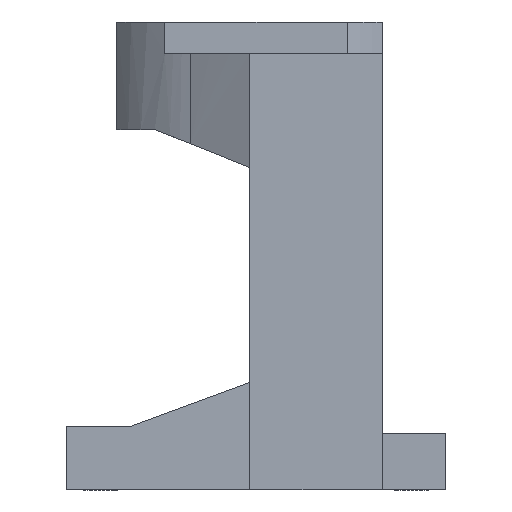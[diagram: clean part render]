
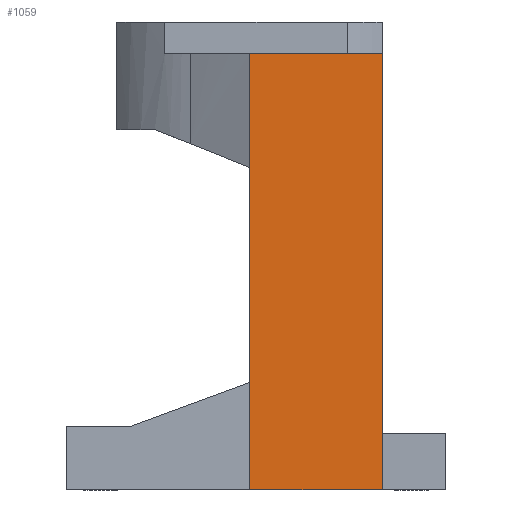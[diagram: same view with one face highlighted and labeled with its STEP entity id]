
A CAD part, left-side view. The second image highlights one B-rep face of the part: STEP entity #1059.
In plain terms, the highlighted planar face has unit normal (-1, 0, 0).
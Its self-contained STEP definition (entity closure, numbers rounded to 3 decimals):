
#53 = CARTESIAN_POINT ( 'NONE',  ( -32.5, 1., 64. ) ) ;
#70 = EDGE_CURVE ( 'NONE', #1032, #2809, #2268, .T. ) ;
#75 = LINE ( 'NONE', #2075, #976 ) ;
#198 = VECTOR ( 'NONE', #801, 1000. ) ;
#389 = CARTESIAN_POINT ( 'NONE',  ( -32.5, -20., 64. ) ) ;
#695 = AXIS2_PLACEMENT_3D ( 'NONE', #2186, #1547, #2421 ) ;
#698 = EDGE_LOOP ( 'NONE', ( #3004, #2362, #1506, #1543 ) ) ;
#801 = DIRECTION ( 'NONE',  ( 0., -1., 0. ) ) ;
#914 = PLANE ( 'NONE',  #695 ) ;
#976 = VECTOR ( 'NONE', #1397, 1000. ) ;
#1025 = VERTEX_POINT ( 'NONE', #2910 ) ;
#1032 = VERTEX_POINT ( 'NONE', #2086 ) ;
#1059 = ADVANCED_FACE ( 'NONE', ( #2428 ), #914, .T. ) ;
#1233 = CARTESIAN_POINT ( 'NONE',  ( -32.5, 1., 64. ) ) ;
#1397 = DIRECTION ( 'NONE',  ( 0., 1., 0. ) ) ;
#1415 = DIRECTION ( 'NONE',  ( 0., 0., -1. ) ) ;
#1457 = VECTOR ( 'NONE', #1415, 1000. ) ;
#1470 = EDGE_CURVE ( 'NONE', #2809, #1678, #2156, .T. ) ;
#1506 = ORIENTED_EDGE ( 'NONE', *, *, #2444, .F. ) ;
#1543 = ORIENTED_EDGE ( 'NONE', *, *, #1873, .F. ) ;
#1547 = DIRECTION ( 'NONE',  ( -1., 0., 0. ) ) ;
#1678 = VERTEX_POINT ( 'NONE', #389 ) ;
#1873 = EDGE_CURVE ( 'NONE', #1678, #1025, #2933, .T. ) ;
#1876 = VECTOR ( 'NONE', #3019, 1000. ) ;
#2075 = CARTESIAN_POINT ( 'NONE',  ( -32.5, 1., -5. ) ) ;
#2086 = CARTESIAN_POINT ( 'NONE',  ( -32.5, 1., -5. ) ) ;
#2156 = LINE ( 'NONE', #53, #198 ) ;
#2186 = CARTESIAN_POINT ( 'NONE',  ( -32.5, -20., 64. ) ) ;
#2258 = CARTESIAN_POINT ( 'NONE',  ( -32.5, 1., 64. ) ) ;
#2268 = LINE ( 'NONE', #1233, #1876 ) ;
#2362 = ORIENTED_EDGE ( 'NONE', *, *, #70, .F. ) ;
#2421 = DIRECTION ( 'NONE',  ( 0., 1., 0. ) ) ;
#2428 = FACE_OUTER_BOUND ( 'NONE', #698, .T. ) ;
#2444 = EDGE_CURVE ( 'NONE', #1025, #1032, #75, .T. ) ;
#2809 = VERTEX_POINT ( 'NONE', #2258 ) ;
#2910 = CARTESIAN_POINT ( 'NONE',  ( -32.5, -20., -5. ) ) ;
#2933 = LINE ( 'NONE', #2944, #1457 ) ;
#2944 = CARTESIAN_POINT ( 'NONE',  ( -32.5, -20., 64. ) ) ;
#3004 = ORIENTED_EDGE ( 'NONE', *, *, #1470, .F. ) ;
#3019 = DIRECTION ( 'NONE',  ( 0., 0., 1. ) ) ;
